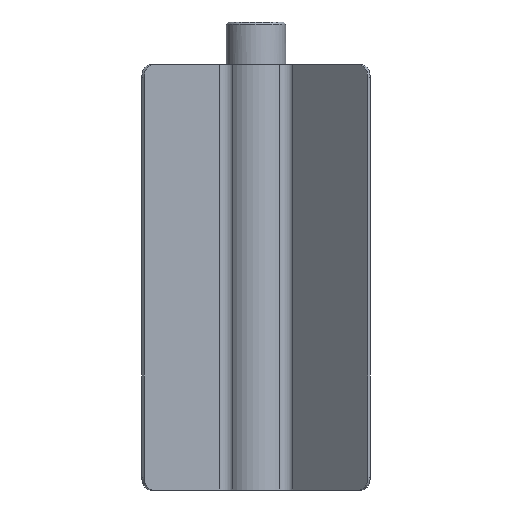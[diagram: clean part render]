
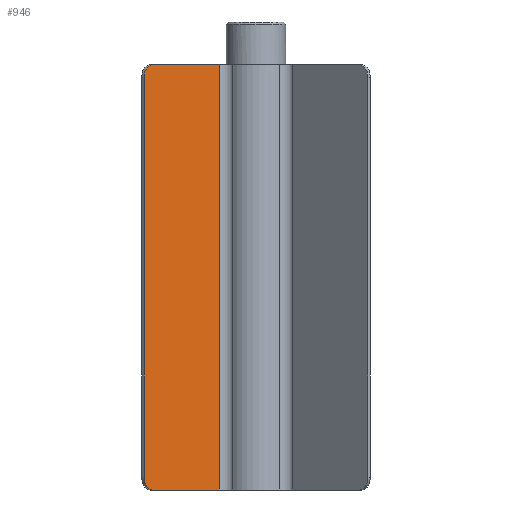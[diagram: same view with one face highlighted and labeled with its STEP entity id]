
A CAD part, front view. The second image highlights one B-rep face of the part: STEP entity #946.
In plain terms, the highlighted planar face has unit normal (0.707, -0.707, 0).
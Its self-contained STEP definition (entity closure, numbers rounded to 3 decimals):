
#30=PLANE('',#1032);
#55=FACE_OUTER_BOUND('',#104,.T.);
#104=EDGE_LOOP('',(#626,#627,#628,#629,#630,#631));
#157=LINE('',#1439,#230);
#167=LINE('',#1480,#240);
#168=LINE('',#1482,#241);
#169=LINE('',#1483,#242);
#230=VECTOR('',#1142,10.);
#240=VECTOR('',#1182,10.);
#241=VECTOR('',#1183,10.);
#242=VECTOR('',#1184,10.);
#298=CIRCLE('',#1014,3.);
#310=CIRCLE('',#1031,3.);
#360=VERTEX_POINT('',#1422);
#361=VERTEX_POINT('',#1424);
#366=VERTEX_POINT('',#1438);
#381=VERTEX_POINT('',#1474);
#382=VERTEX_POINT('',#1476);
#383=VERTEX_POINT('',#1481);
#452=EDGE_CURVE('',#360,#361,#298,.T.);
#459=EDGE_CURVE('',#366,#361,#157,.T.);
#478=EDGE_CURVE('',#381,#382,#310,.T.);
#480=EDGE_CURVE('',#360,#382,#167,.T.);
#481=EDGE_CURVE('',#383,#381,#168,.T.);
#482=EDGE_CURVE('',#366,#383,#169,.T.);
#626=ORIENTED_EDGE('',*,*,#452,.F.);
#627=ORIENTED_EDGE('',*,*,#480,.T.);
#628=ORIENTED_EDGE('',*,*,#478,.F.);
#629=ORIENTED_EDGE('',*,*,#481,.F.);
#630=ORIENTED_EDGE('',*,*,#482,.F.);
#631=ORIENTED_EDGE('',*,*,#459,.T.);
#946=ADVANCED_FACE('',(#55),#30,.T.);
#1014=AXIS2_PLACEMENT_3D('',#1425,#1129,#1130);
#1031=AXIS2_PLACEMENT_3D('',#1477,#1177,#1178);
#1032=AXIS2_PLACEMENT_3D('',#1479,#1180,#1181);
#1129=DIRECTION('center_axis',(-0.707,0.707,0.));
#1130=DIRECTION('ref_axis',(-0.5,-0.5,0.707));
#1142=DIRECTION('',(-0.707,-0.707,0.));
#1177=DIRECTION('center_axis',(-0.707,0.707,0.));
#1178=DIRECTION('ref_axis',(-0.5,-0.5,-0.707));
#1180=DIRECTION('center_axis',(0.707,-0.707,0.));
#1181=DIRECTION('ref_axis',(-0.707,-0.707,0.));
#1182=DIRECTION('',(0.,0.,-1.));
#1183=DIRECTION('',(-0.707,-0.707,0.));
#1184=DIRECTION('',(0.,0.,-1.));
#1422=CARTESIAN_POINT('',(-26.304,-23.193,2.));
#1424=CARTESIAN_POINT('',(-24.183,-21.072,5.));
#1425=CARTESIAN_POINT('Origin',(-24.183,-21.072,2.));
#1438=CARTESIAN_POINT('',(-8.627,-5.515,5.));
#1439=CARTESIAN_POINT('',(-8.627,-5.515,5.));
#1474=CARTESIAN_POINT('',(-24.183,-21.072,-95.));
#1476=CARTESIAN_POINT('',(-26.304,-23.193,-92.));
#1477=CARTESIAN_POINT('Origin',(-24.183,-21.072,-92.));
#1479=CARTESIAN_POINT('Origin',(-8.627,-5.515,5.));
#1480=CARTESIAN_POINT('',(-26.304,-23.193,5.));
#1481=CARTESIAN_POINT('',(-8.627,-5.515,-95.));
#1482=CARTESIAN_POINT('',(-8.627,-5.515,-95.));
#1483=CARTESIAN_POINT('',(-8.627,-5.515,5.));
